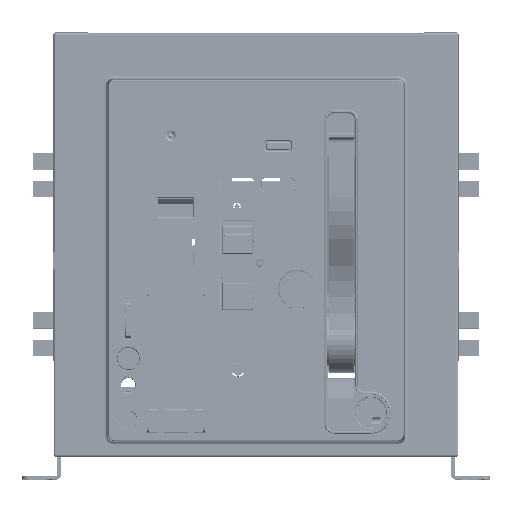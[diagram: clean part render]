
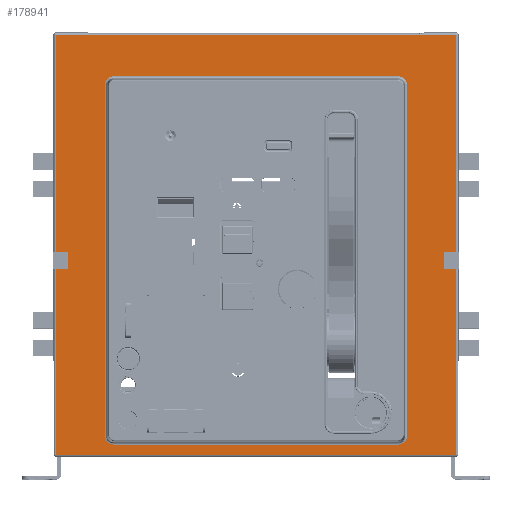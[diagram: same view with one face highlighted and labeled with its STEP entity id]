
A CAD part, top view. The second image highlights one B-rep face of the part: STEP entity #178941.
In plain terms, the highlighted planar face has unit normal (0, 0, 1).
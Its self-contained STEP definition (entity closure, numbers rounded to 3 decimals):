
#159692=DIRECTION('',(0.,1.,0.));
#159693=VECTOR('',#159692,15.4);
#159694=CARTESIAN_POINT('',(-170.5,-21.15,49.));
#159695=LINE('',#159694,#159693);
#159696=DIRECTION('',(-1.,0.,0.));
#159697=VECTOR('',#159696,11.017);
#159698=CARTESIAN_POINT('',(-170.5,-5.75,49.));
#159699=LINE('',#159698,#159697);
#159700=DIRECTION('',(1.,0.,0.));
#159701=VECTOR('',#159700,11.017);
#159702=CARTESIAN_POINT('',(170.5,-21.15,49.));
#159703=LINE('',#159702,#159701);
#159704=CARTESIAN_POINT('',(-136.965,-172.617,
49.));
#159705=CARTESIAN_POINT('',(-136.965,-173.333,
49.));
#159706=CARTESIAN_POINT('',(-136.78,-174.71,
49.));
#159707=CARTESIAN_POINT('',(-135.971,-176.668,
49.));
#159708=CARTESIAN_POINT('',(-134.687,-178.337,
49.));
#159709=CARTESIAN_POINT('',(-133.019,-179.62,
49.));
#159710=CARTESIAN_POINT('',(-131.06,-180.43,
49.));
#159711=CARTESIAN_POINT('',(-129.683,-180.615,
49.));
#159712=CARTESIAN_POINT('',(-128.967,-180.615,
49.));
#159714=CARTESIAN_POINT('',(128.967,-180.615,
49.));
#159715=CARTESIAN_POINT('',(129.683,-180.615,
49.));
#159716=CARTESIAN_POINT('',(131.06,-180.43,
49.));
#159717=CARTESIAN_POINT('',(133.018,-179.621,
49.));
#159718=CARTESIAN_POINT('',(134.687,-178.337,
49.));
#159719=CARTESIAN_POINT('',(135.97,-176.669,
49.));
#159720=CARTESIAN_POINT('',(136.78,-174.71,
49.));
#159721=CARTESIAN_POINT('',(136.965,-173.333,
49.));
#159722=CARTESIAN_POINT('',(136.965,-172.617,
49.));
#159724=CARTESIAN_POINT('',(136.965,145.317,
49.));
#159725=CARTESIAN_POINT('',(136.965,146.033,
49.));
#159726=CARTESIAN_POINT('',(136.78,147.41,
49.));
#159727=CARTESIAN_POINT('',(135.971,149.368,
49.));
#159728=CARTESIAN_POINT('',(134.687,151.037,
49.));
#159729=CARTESIAN_POINT('',(133.019,152.32,
49.));
#159730=CARTESIAN_POINT('',(131.06,153.13,
49.));
#159731=CARTESIAN_POINT('',(129.683,153.315,
49.));
#159732=CARTESIAN_POINT('',(128.967,153.315,
49.));
#159734=CARTESIAN_POINT('',(-128.967,153.315,
49.));
#159735=CARTESIAN_POINT('',(-129.683,153.315,
49.));
#159736=CARTESIAN_POINT('',(-131.06,153.13,
49.));
#159737=CARTESIAN_POINT('',(-133.018,152.321,
49.));
#159738=CARTESIAN_POINT('',(-134.687,151.037,
49.));
#159739=CARTESIAN_POINT('',(-135.97,149.369,
49.));
#159740=CARTESIAN_POINT('',(-136.78,147.41,
49.));
#159741=CARTESIAN_POINT('',(-136.965,146.033,
49.));
#159742=CARTESIAN_POINT('',(-136.965,145.317,
49.));
#159744=DIRECTION('',(0.,1.,0.));
#159745=VECTOR('',#159744,168.5);
#159746=CARTESIAN_POINT('',(181.517,-189.65,49.));
#159747=LINE('',#159746,#159745);
#159860=DIRECTION('',(0.,1.,0.));
#159861=VECTOR('',#159860,15.4);
#159862=CARTESIAN_POINT('',(170.5,-21.15,49.));
#159863=LINE('',#159862,#159861);
#159877=DIRECTION('',(1.,0.,0.));
#159878=VECTOR('',#159877,11.017);
#159879=CARTESIAN_POINT('',(170.5,-5.75,49.));
#159880=LINE('',#159879,#159878);
#159881=DIRECTION('',(0.,1.,0.));
#159882=VECTOR('',#159881,196.517);
#159883=CARTESIAN_POINT('',(181.517,-5.75,49.));
#159884=LINE('',#159883,#159882);
#159912=DIRECTION('',(-1.,0.,0.));
#159913=VECTOR('',#159912,363.035);
#159914=CARTESIAN_POINT('',(181.517,190.767,49.));
#159915=LINE('',#159914,#159913);
#162526=DIRECTION('',(1.,0.,0.));
#162527=VECTOR('',#162526,363.035);
#162528=CARTESIAN_POINT('',(-181.517,-189.65,49.));
#162529=LINE('',#162528,#162527);
#162549=DIRECTION('',(0.,-1.,0.));
#162550=VECTOR('',#162549,168.5);
#162551=CARTESIAN_POINT('',(-181.517,-21.15,49.));
#162552=LINE('',#162551,#162550);
#162570=DIRECTION('',(-1.,0.,0.));
#162571=VECTOR('',#162570,11.017);
#162572=CARTESIAN_POINT('',(-170.5,-21.15,49.));
#162573=LINE('',#162572,#162571);
#162601=DIRECTION('',(0.,-1.,0.));
#162602=VECTOR('',#162601,196.517);
#162603=CARTESIAN_POINT('',(-181.517,190.767,49.));
#162604=LINE('',#162603,#162602);
#165230=DIRECTION('',(-1.,0.,0.));
#165231=VECTOR('',#165230,257.933);
#165232=CARTESIAN_POINT('',(128.967,-180.615,
49.));
#165233=LINE('',#165232,#165231);
#165248=DIRECTION('',(0.,-1.,0.));
#165249=VECTOR('',#165248,317.933);
#165250=CARTESIAN_POINT('',(136.965,145.317,
49.));
#165251=LINE('',#165250,#165249);
#165266=DIRECTION('',(1.,0.,0.));
#165267=VECTOR('',#165266,257.933);
#165268=CARTESIAN_POINT('',(-128.967,153.315,
49.));
#165269=LINE('',#165268,#165267);
#165284=DIRECTION('',(0.,1.,0.));
#165285=VECTOR('',#165284,317.933);
#165286=CARTESIAN_POINT('',(-136.965,-172.617,
49.));
#165287=LINE('',#165286,#165285);
#174845=CARTESIAN_POINT('',(181.517,-189.65,49.));
#174846=CARTESIAN_POINT('',(181.517,-21.15,49.));
#174847=VERTEX_POINT('',#174845);
#174848=VERTEX_POINT('',#174846);
#174849=CARTESIAN_POINT('',(-181.517,-189.65,49.));
#174850=VERTEX_POINT('',#174849);
#174851=CARTESIAN_POINT('',(-181.517,-21.15,49.));
#174852=VERTEX_POINT('',#174851);
#174853=CARTESIAN_POINT('',(-170.5,-21.15,49.));
#174854=VERTEX_POINT('',#174853);
#174855=CARTESIAN_POINT('',(-170.5,-5.75,49.));
#174856=VERTEX_POINT('',#174855);
#174857=CARTESIAN_POINT('',(-181.517,-5.75,49.));
#174858=VERTEX_POINT('',#174857);
#174859=CARTESIAN_POINT('',(-181.517,190.767,49.));
#174860=VERTEX_POINT('',#174859);
#174861=CARTESIAN_POINT('',(181.517,190.767,49.));
#174862=VERTEX_POINT('',#174861);
#174863=CARTESIAN_POINT('',(181.517,-5.75,49.));
#174864=VERTEX_POINT('',#174863);
#174865=CARTESIAN_POINT('',(170.5,-5.75,49.));
#174866=VERTEX_POINT('',#174865);
#174867=CARTESIAN_POINT('',(170.5,-21.15,49.));
#174868=VERTEX_POINT('',#174867);
#174869=CARTESIAN_POINT('',(-136.965,-172.617,
49.));
#174870=CARTESIAN_POINT('',(-136.965,145.317,
49.));
#174871=VERTEX_POINT('',#174869);
#174872=VERTEX_POINT('',#174870);
#174873=VERTEX_POINT('',#159712);
#174874=CARTESIAN_POINT('',(128.967,-180.615,
49.));
#174875=VERTEX_POINT('',#174874);
#174876=VERTEX_POINT('',#159722);
#174877=CARTESIAN_POINT('',(136.965,145.317,
49.));
#174878=VERTEX_POINT('',#174877);
#174879=VERTEX_POINT('',#159732);
#174880=CARTESIAN_POINT('',(-128.967,153.315,
49.));
#174881=VERTEX_POINT('',#174880);
#178892=CARTESIAN_POINT('',(0.,0.,49.));
#178893=DIRECTION('',(0.,0.,1.));
#178894=DIRECTION('',(1.,0.,0.));
#178895=AXIS2_PLACEMENT_3D('',#178892,#178893,#178894);
#178896=PLANE('',#178895);
#178898=ORIENTED_EDGE('',*,*,#178897,.F.);
#178900=ORIENTED_EDGE('',*,*,#178899,.F.);
#178902=ORIENTED_EDGE('',*,*,#178901,.F.);
#178904=ORIENTED_EDGE('',*,*,#178903,.F.);
#178906=ORIENTED_EDGE('',*,*,#178905,.T.);
#178908=ORIENTED_EDGE('',*,*,#178907,.T.);
#178910=ORIENTED_EDGE('',*,*,#178909,.F.);
#178912=ORIENTED_EDGE('',*,*,#178911,.F.);
#178914=ORIENTED_EDGE('',*,*,#178913,.F.);
#178916=ORIENTED_EDGE('',*,*,#178915,.F.);
#178918=ORIENTED_EDGE('',*,*,#178917,.F.);
#178920=ORIENTED_EDGE('',*,*,#178919,.T.);
#178921=EDGE_LOOP('',(#178898,#178900,#178902,#178904,#178906,#178908,#178910,
#178912,#178914,#178916,#178918,#178920));
#178922=FACE_OUTER_BOUND('',#178921,.F.);
#178924=ORIENTED_EDGE('',*,*,#178923,.F.);
#178926=ORIENTED_EDGE('',*,*,#178925,.T.);
#178928=ORIENTED_EDGE('',*,*,#178927,.F.);
#178930=ORIENTED_EDGE('',*,*,#178929,.T.);
#178932=ORIENTED_EDGE('',*,*,#178931,.F.);
#178934=ORIENTED_EDGE('',*,*,#178933,.T.);
#178936=ORIENTED_EDGE('',*,*,#178935,.F.);
#178938=ORIENTED_EDGE('',*,*,#178937,.T.);
#178939=EDGE_LOOP('',(#178924,#178926,#178928,#178930,#178932,#178934,#178936,
#178938));
#178940=FACE_BOUND('',#178939,.F.);
#178941=ADVANCED_FACE('',(#178922,#178940),#178896,.T.);
#159713=B_SPLINE_CURVE_WITH_KNOTS('',3,(#159704,#159705,#159706,#159707,#159708,
#159709,#159710,#159711,#159712),.UNSPECIFIED.,.F.,.F.,(4,1,1,1,1,1,4),(0.,
0.167,0.333,0.5,0.667,0.833,
1.),.UNSPECIFIED.);
#159723=B_SPLINE_CURVE_WITH_KNOTS('',3,(#159714,#159715,#159716,#159717,#159718,
#159719,#159720,#159721,#159722),.UNSPECIFIED.,.F.,.F.,(4,1,1,1,1,1,4),(0.,
0.167,0.333,0.5,0.667,0.833,
1.),.UNSPECIFIED.);
#159733=B_SPLINE_CURVE_WITH_KNOTS('',3,(#159724,#159725,#159726,#159727,#159728,
#159729,#159730,#159731,#159732),.UNSPECIFIED.,.F.,.F.,(4,1,1,1,1,1,4),(0.,
0.167,0.333,0.5,0.667,0.833,
1.),.UNSPECIFIED.);
#159743=B_SPLINE_CURVE_WITH_KNOTS('',3,(#159734,#159735,#159736,#159737,#159738,
#159739,#159740,#159741,#159742),.UNSPECIFIED.,.F.,.F.,(4,1,1,1,1,1,4),(0.,
0.167,0.333,0.5,0.667,0.833,
1.),.UNSPECIFIED.);
#178897=EDGE_CURVE('',#174847,#174848,#159747,.T.);
#178899=EDGE_CURVE('',#174850,#174847,#162529,.T.);
#178901=EDGE_CURVE('',#174852,#174850,#162552,.T.);
#178903=EDGE_CURVE('',#174854,#174852,#162573,.T.);
#178905=EDGE_CURVE('',#174854,#174856,#159695,.T.);
#178907=EDGE_CURVE('',#174856,#174858,#159699,.T.);
#178909=EDGE_CURVE('',#174860,#174858,#162604,.T.);
#178911=EDGE_CURVE('',#174862,#174860,#159915,.T.);
#178913=EDGE_CURVE('',#174864,#174862,#159884,.T.);
#178915=EDGE_CURVE('',#174866,#174864,#159880,.T.);
#178917=EDGE_CURVE('',#174868,#174866,#159863,.T.);
#178919=EDGE_CURVE('',#174868,#174848,#159703,.T.);
#178923=EDGE_CURVE('',#174871,#174872,#165287,.T.);
#178925=EDGE_CURVE('',#174871,#174873,#159713,.T.);
#178927=EDGE_CURVE('',#174875,#174873,#165233,.T.);
#178929=EDGE_CURVE('',#174875,#174876,#159723,.T.);
#178931=EDGE_CURVE('',#174878,#174876,#165251,.T.);
#178933=EDGE_CURVE('',#174878,#174879,#159733,.T.);
#178935=EDGE_CURVE('',#174881,#174879,#165269,.T.);
#178937=EDGE_CURVE('',#174881,#174872,#159743,.T.);
